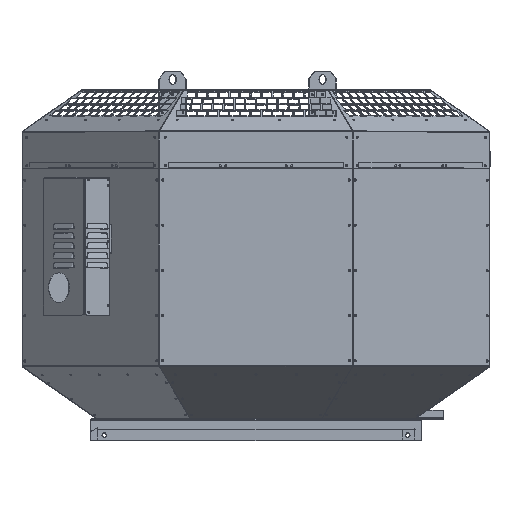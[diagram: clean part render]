
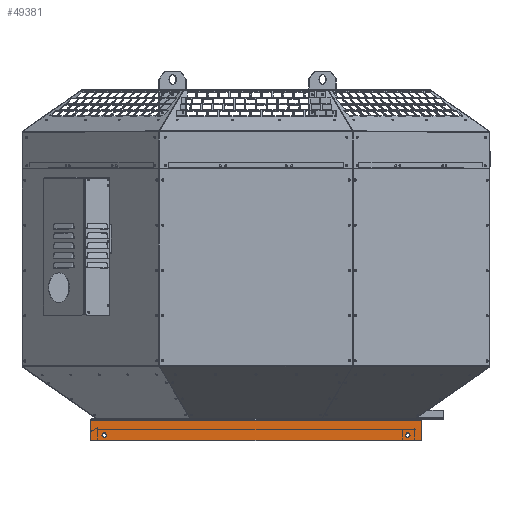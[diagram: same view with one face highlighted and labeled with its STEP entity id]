
A CAD part, top view. The second image highlights one B-rep face of the part: STEP entity #49381.
In plain terms, the highlighted planar face has unit normal (0, 0, 1).
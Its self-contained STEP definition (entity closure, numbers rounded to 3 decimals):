
#526 = CARTESIAN_POINT ( 'NONE',  ( 319., -14.2, 337. ) ) ;
#1252 = CARTESIAN_POINT ( 'NONE',  ( -330.55, 16.6, 337. ) ) ;
#1829 = DIRECTION ( 'NONE',  ( 0., 0., 1. ) ) ;
#2733 = VERTEX_POINT ( 'NONE', #105836 ) ;
#3523 = LINE ( 'NONE', #108473, #53288 ) ;
#4530 = ORIENTED_EDGE ( 'NONE', *, *, #72220, .F. ) ;
#4992 = VERTEX_POINT ( 'NONE', #115031 ) ;
#7932 = DIRECTION ( 'NONE',  ( 0., 0., 1. ) ) ;
#8246 = PLANE ( 'NONE',  #95223 ) ;
#8313 = LINE ( 'NONE', #43105, #111141 ) ;
#10520 = DIRECTION ( 'NONE',  ( 0., -1., 0. ) ) ;
#13039 = DIRECTION ( 'NONE',  ( 0., 0., 1. ) ) ;
#13511 = CARTESIAN_POINT ( 'NONE',  ( -348.45, -22., 337. ) ) ;
#15157 = VERTEX_POINT ( 'NONE', #13511 ) ;
#16490 = EDGE_CURVE ( 'NONE', #15157, #82616, #34767, .T. ) ;
#17894 = LINE ( 'NONE', #1252, #67647 ) ;
#17919 = CARTESIAN_POINT ( 'NONE',  ( 348.45, 16.6, 337. ) ) ;
#20284 = DIRECTION ( 'NONE',  ( -1., 0., 0. ) ) ;
#20379 = CARTESIAN_POINT ( 'NONE',  ( 345.05, 16.6, 337. ) ) ;
#20744 = AXIS2_PLACEMENT_3D ( 'NONE', #526, #70087, #10520 ) ;
#26153 = ORIENTED_EDGE ( 'NONE', *, *, #126216, .F. ) ;
#29387 = EDGE_CURVE ( 'NONE', #66687, #36282, #100593, .T. ) ;
#31946 = EDGE_CURVE ( 'NONE', #45254, #34033, #8313, .T. ) ;
#34033 = VERTEX_POINT ( 'NONE', #17919 ) ;
#34059 = CARTESIAN_POINT ( 'NONE',  ( -319., -9.7, 337. ) ) ;
#34673 = VERTEX_POINT ( 'NONE', #128227 ) ;
#34767 = CIRCLE ( 'NONE', #126233, 3. ) ;
#35563 = DIRECTION ( 'NONE',  ( 0., 0., 1. ) ) ;
#35917 = FACE_BOUND ( 'NONE', #117901, .T. ) ;
#35953 = ORIENTED_EDGE ( 'NONE', *, *, #119502, .T. ) ;
#36282 = VERTEX_POINT ( 'NONE', #97392 ) ;
#38064 = CARTESIAN_POINT ( 'NONE',  ( -330.55, 16.6, 337. ) ) ;
#38201 = AXIS2_PLACEMENT_3D ( 'NONE', #95197, #35563, #105282 ) ;
#38256 = CARTESIAN_POINT ( 'NONE',  ( -330.55, 18.5, 337. ) ) ;
#38743 = CIRCLE ( 'NONE', #90287, 4.5 ) ;
#38929 = LINE ( 'NONE', #124866, #118418 ) ;
#43105 = CARTESIAN_POINT ( 'NONE',  ( 330.55, 16.6, 337. ) ) ;
#45254 = VERTEX_POINT ( 'NONE', #20379 ) ;
#47306 = VECTOR ( 'NONE', #83042, 1000. ) ;
#48012 = ORIENTED_EDGE ( 'NONE', *, *, #85376, .F. ) ;
#49381 = ADVANCED_FACE ( 'NONE', ( #65493, #35917, #88859 ), #8246, .T. ) ;
#50275 = CARTESIAN_POINT ( 'NONE',  ( 348.45, -22., 337. ) ) ;
#50780 = DIRECTION ( 'NONE',  ( -1., 0., 0. ) ) ;
#53288 = VECTOR ( 'NONE', #118440, 1000. ) ;
#54941 = EDGE_LOOP ( 'NONE', ( #96337, #109632 ) ) ;
#55887 = CARTESIAN_POINT ( 'NONE',  ( -319., -14.2, 337. ) ) ;
#57741 = EDGE_CURVE ( 'NONE', #36282, #15157, #126727, .T. ) ;
#58260 = DIRECTION ( 'NONE',  ( 0., 0., 1. ) ) ;
#61400 = CARTESIAN_POINT ( 'NONE',  ( 319., -14.2, 337. ) ) ;
#63085 = DIRECTION ( 'NONE',  ( 1., 0., 0. ) ) ;
#63096 = ORIENTED_EDGE ( 'NONE', *, *, #16490, .T. ) ;
#65493 = FACE_BOUND ( 'NONE', #54941, .T. ) ;
#65901 = DIRECTION ( 'NONE',  ( 0., -1., 0. ) ) ;
#66424 = CARTESIAN_POINT ( 'NONE',  ( -345.05, 16.6, 337. ) ) ;
#66687 = VERTEX_POINT ( 'NONE', #66424 ) ;
#67513 = CARTESIAN_POINT ( 'NONE',  ( -345.45, -22., 337. ) ) ;
#67647 = VECTOR ( 'NONE', #50780, 1000. ) ;
#69010 = VERTEX_POINT ( 'NONE', #34059 ) ;
#69947 = CIRCLE ( 'NONE', #70257, 4.5 ) ;
#70087 = DIRECTION ( 'NONE',  ( 0., 0., 1. ) ) ;
#70257 = AXIS2_PLACEMENT_3D ( 'NONE', #61400, #1829, #71396 ) ;
#70848 = ORIENTED_EDGE ( 'NONE', *, *, #29387, .T. ) ;
#71396 = DIRECTION ( 'NONE',  ( 0., -1., 0. ) ) ;
#72027 = EDGE_CURVE ( 'NONE', #34673, #106957, #69947, .T. ) ;
#72220 = EDGE_CURVE ( 'NONE', #2733, #69010, #38743, .T. ) ;
#72530 = AXIS2_PLACEMENT_3D ( 'NONE', #55887, #125573, #65901 ) ;
#72586 = CARTESIAN_POINT ( 'NONE',  ( -319., -14.2, 337. ) ) ;
#73013 = CARTESIAN_POINT ( 'NONE',  ( -348.45, 16.6, 337. ) ) ;
#74056 = VECTOR ( 'NONE', #20284, 1000. ) ;
#75222 = DIRECTION ( 'NONE',  ( 0., -1., 0. ) ) ;
#77527 = DIRECTION ( 'NONE',  ( 0., -1., 0. ) ) ;
#82370 = EDGE_CURVE ( 'NONE', #106957, #34673, #83537, .T. ) ;
#82594 = DIRECTION ( 'NONE',  ( 0., -1., 0. ) ) ;
#82616 = VERTEX_POINT ( 'NONE', #125398 ) ;
#83042 = DIRECTION ( 'NONE',  ( 0., -1., 0. ) ) ;
#83537 = CIRCLE ( 'NONE', #20744, 4.5 ) ;
#85376 = EDGE_CURVE ( 'NONE', #69010, #2733, #126621, .T. ) ;
#86618 = EDGE_LOOP ( 'NONE', ( #108096, #63096, #115074, #104902, #26153, #118002, #35953, #70848 ) ) ;
#88859 = FACE_OUTER_BOUND ( 'NONE', #86618, .T. ) ;
#90287 = AXIS2_PLACEMENT_3D ( 'NONE', #72586, #13039, #82594 ) ;
#95028 = EDGE_CURVE ( 'NONE', #4992, #82616, #3523, .T. ) ;
#95197 = CARTESIAN_POINT ( 'NONE',  ( 345.45, -22., 337. ) ) ;
#95223 = AXIS2_PLACEMENT_3D ( 'NONE', #38256, #58260, #127905 ) ;
#96337 = ORIENTED_EDGE ( 'NONE', *, *, #82370, .F. ) ;
#97392 = CARTESIAN_POINT ( 'NONE',  ( -348.45, 16.6, 337. ) ) ;
#100593 = LINE ( 'NONE', #38064, #74056 ) ;
#104902 = ORIENTED_EDGE ( 'NONE', *, *, #120136, .T. ) ;
#105282 = DIRECTION ( 'NONE',  ( 0., -1., 0. ) ) ;
#105836 = CARTESIAN_POINT ( 'NONE',  ( -319., -18.7, 337. ) ) ;
#106957 = VERTEX_POINT ( 'NONE', #107573 ) ;
#107573 = CARTESIAN_POINT ( 'NONE',  ( 319., -18.7, 337. ) ) ;
#108096 = ORIENTED_EDGE ( 'NONE', *, *, #57741, .T. ) ;
#108473 = CARTESIAN_POINT ( 'NONE',  ( -330.55, -25., 337. ) ) ;
#109632 = ORIENTED_EDGE ( 'NONE', *, *, #72027, .F. ) ;
#111141 = VECTOR ( 'NONE', #63085, 1000. ) ;
#115031 = CARTESIAN_POINT ( 'NONE',  ( 345.45, -25., 337. ) ) ;
#115074 = ORIENTED_EDGE ( 'NONE', *, *, #95028, .F. ) ;
#117901 = EDGE_LOOP ( 'NONE', ( #4530, #48012 ) ) ;
#118002 = ORIENTED_EDGE ( 'NONE', *, *, #31946, .F. ) ;
#118418 = VECTOR ( 'NONE', #75222, 1000. ) ;
#118440 = DIRECTION ( 'NONE',  ( -1., 0., 0. ) ) ;
#119502 = EDGE_CURVE ( 'NONE', #45254, #66687, #17894, .T. ) ;
#120136 = EDGE_CURVE ( 'NONE', #4992, #122078, #121074, .T. ) ;
#121074 = CIRCLE ( 'NONE', #38201, 3. ) ;
#122078 = VERTEX_POINT ( 'NONE', #50275 ) ;
#124866 = CARTESIAN_POINT ( 'NONE',  ( 348.45, 16.6, 337. ) ) ;
#125398 = CARTESIAN_POINT ( 'NONE',  ( -345.45, -25., 337. ) ) ;
#125573 = DIRECTION ( 'NONE',  ( 0., 0., 1. ) ) ;
#126216 = EDGE_CURVE ( 'NONE', #34033, #122078, #38929, .T. ) ;
#126233 = AXIS2_PLACEMENT_3D ( 'NONE', #67513, #7932, #77527 ) ;
#126621 = CIRCLE ( 'NONE', #72530, 4.5 ) ;
#126727 = LINE ( 'NONE', #73013, #47306 ) ;
#127905 = DIRECTION ( 'NONE',  ( 0., -1., 0. ) ) ;
#128227 = CARTESIAN_POINT ( 'NONE',  ( 319., -9.7, 337. ) ) ;
